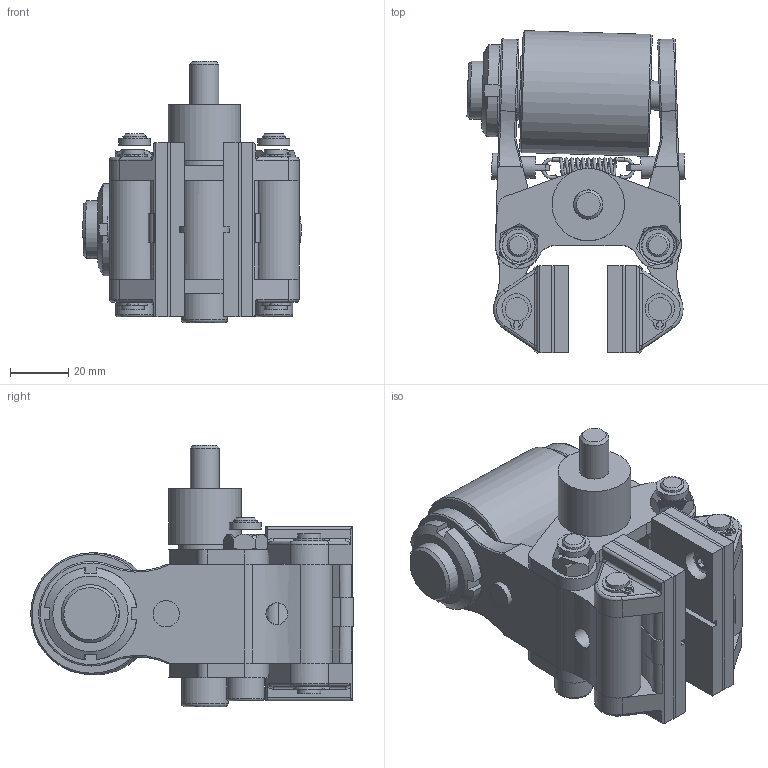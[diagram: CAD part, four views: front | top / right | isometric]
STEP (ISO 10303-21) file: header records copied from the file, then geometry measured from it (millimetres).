
FILE_DESCRIPTION(/* description */ ('','CAx-IF Rec.Pracs.---Representation and Presentation of Product Manufacturing Information (PMI)---4.0---2014-10-13'),/* implementation_level */ '2;1');
FILE_NAME(/* name */ 'X:\INVENTOR\DISEGNI\19_Pinze\STEP x Sito\PNEUM-NEGATIVE\19_36_A03_03 PPA-NA03_12,7.stp',/* time_stamp */ '2018-02-21T14:48:20+01:00',/* author */ ('stefano'),/* organization */ (''),/* preprocessor_version */ 'ST-DEVELOPER v17',/* originating_system */ 'Autodesk Inventor 2018',/* authorisation */ '');
FILE_SCHEMA (('AP242_MANAGED_MODEL_BASED_3D_ENGINEERING_MIM_LF { 1 0 10303 442 1 1 4 }'));
Length unit declared in the file: millimetre
Products named in the file (1): 19_36_A03_03 PPA-NA03_12,7_Substitute_2
Bounding box: 75.12 x 111.12 x 90 mm (x, y, z)
Volume: 202274 mm3; surface area: 65322.1 mm2
Topology: 1 solids, 1 shells, 538 faces, 1488 edges, 972 vertices
Faces by surface type: plane 271, cylinder 170, torus 43, cone 31, bspline 21, sphere 2
Full cylindrical faces by diameter (mm): 1.1 x2, 2.5 x4, 6 x1, 7.4 x2, 7.5 x4, 7.6 x4, 8 x10, 8.566 x1, 9 x2, 9.5 x4, 10 x3, 10.1 x1, 10.5 x4, 11.05 x2, 13 x2, 16 x1, 18 x2, 20 x2, 25 x2, 27 x1, 29 x1, 35 x1, 36 x1, 42 x1
Entity records: 20375 total; most frequent: CARTESIAN_POINT 5908, DIRECTION 2964, ORIENTED_EDGE 2952, EDGE_CURVE 1476, AXIS2_PLACEMENT_3D 1152, VERTEX_POINT 972, LINE 660, VECTOR 660
